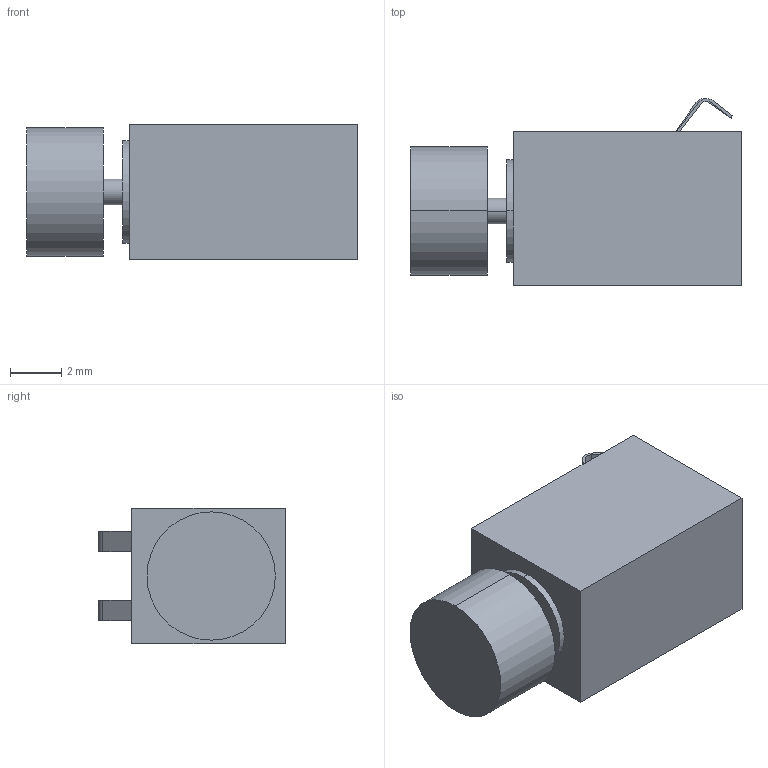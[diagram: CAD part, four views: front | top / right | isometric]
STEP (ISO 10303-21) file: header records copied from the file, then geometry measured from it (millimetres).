
FILE_DESCRIPTION((''),'2;1');
FILE_NAME('VIBRATOR_2113TOP0_PRT','2008-06-30T',('GRA'),(''),'PRO/ENGINEER BY PARAMETRIC TECHNOLOGY CORPORATION, 2006170','PRO/ENGINEER BY PARAMETRIC TECHNOLOGY CORPORATION, 2006170','');
FILE_SCHEMA(('CONFIG_CONTROL_DESIGN'));
Length unit declared in the file: millimetre
Products named in the file (1): VIBRATOR_2113TOP0_PRT
Bounding box: 12.9 x 7.29 x 5.3 mm (x, y, z)
Volume: 346.1 mm3; surface area: 365.5 mm2
Topology: 1 solids, 1 shells, 33 faces, 78 edges, 52 vertices
Faces by surface type: plane 23, cylinder 10
Entity records: 990 total; most frequent: DIRECTION 164, CARTESIAN_POINT 163, ORIENTED_EDGE 156, EDGE_CURVE 78, VECTOR 58, LINE 58, AXIS2_PLACEMENT_3D 53, VERTEX_POINT 52
